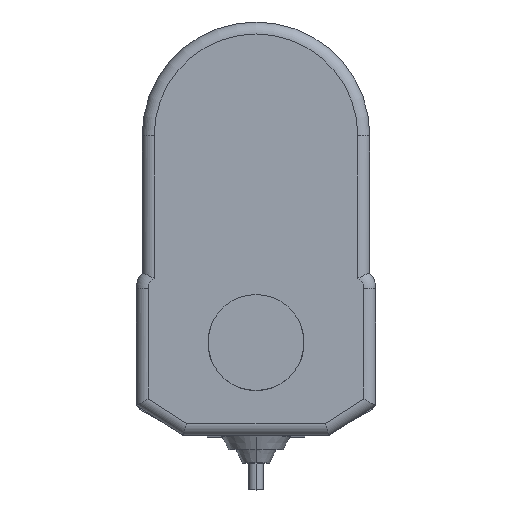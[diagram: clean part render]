
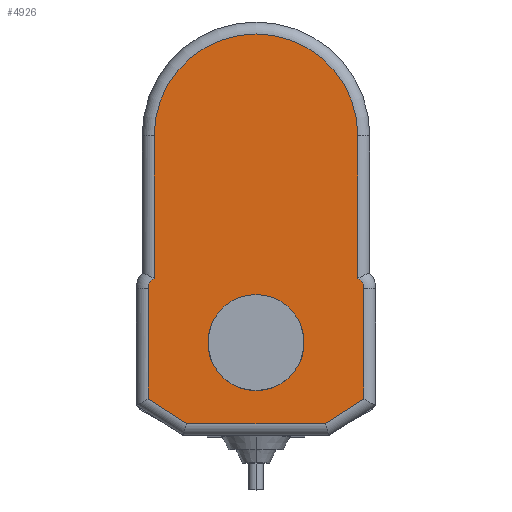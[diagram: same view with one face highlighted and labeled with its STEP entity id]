
A CAD part, top view. The second image highlights one B-rep face of the part: STEP entity #4926.
In plain terms, the highlighted planar face has unit normal (0, 0, 1).
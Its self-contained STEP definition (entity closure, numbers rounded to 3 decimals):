
#35 = CARTESIAN_POINT ( 'NONE',  ( -11.569, -13.5, 114.9 ) ) ;
#108 = LINE ( 'NONE', #109, #110 ) ;
#109 = CARTESIAN_POINT ( 'NONE',  ( 17., 34.5, 114.9 ) ) ;
#110 = VECTOR ( 'NONE', #111, 1000. ) ;
#111 = DIRECTION ( 'NONE',  ( 0., 1., 0. ) ) ;
#219 = ORIENTED_EDGE ( 'NONE', *, *, #523, .T. ) ;
#274 = CARTESIAN_POINT ( 'NONE',  ( 17., 34.5, 114.9 ) ) ;
#383 = CIRCLE ( 'NONE', #384, 8. ) ;
#384 = AXIS2_PLACEMENT_3D ( 'NONE', #385, #386, #387 ) ;
#385 = CARTESIAN_POINT ( 'NONE',  ( 0., 0., 114.9 ) ) ;
#386 = DIRECTION ( 'NONE',  ( 0., 0., 1. ) ) ;
#387 = DIRECTION ( 'NONE',  ( 1., 0., 0. ) ) ;
#515 = LINE ( 'NONE', #516, #517 ) ;
#516 = CARTESIAN_POINT ( 'NONE',  ( 12.152, -13.5, 114.9 ) ) ;
#517 = VECTOR ( 'NONE', #518, 1000. ) ;
#518 = DIRECTION ( 'NONE',  ( 1., 0., 0. ) ) ;
#523 = EDGE_CURVE ( 'NONE', #746, #934, #5088, .T. ) ;
#718 = CARTESIAN_POINT ( 'NONE',  ( 11.569, -13.5, 114.9 ) ) ;
#746 = VERTEX_POINT ( 'NONE', #5162 ) ;
#795 = CIRCLE ( 'NONE', #799, 17. ) ;
#799 = AXIS2_PLACEMENT_3D ( 'NONE', #800, #801, #802 ) ;
#800 = CARTESIAN_POINT ( 'NONE',  ( 0., 34.5, 114.9 ) ) ;
#801 = DIRECTION ( 'NONE',  ( 0., 0., 1. ) ) ;
#802 = DIRECTION ( 'NONE',  ( 1., 0., 0. ) ) ;
#934 = VERTEX_POINT ( 'NONE', #35 ) ;
#984 = CARTESIAN_POINT ( 'NONE',  ( -17., 34.5, 114.9 ) ) ;
#1208 = LINE ( 'NONE', #1209, #1210 ) ;
#1209 = CARTESIAN_POINT ( 'NONE',  ( 18.925, -8.813, 114.9 ) ) ;
#1210 = VECTOR ( 'NONE', #1211, 1000. ) ;
#1211 = DIRECTION ( 'NONE',  ( 0.843, 0.537, 0. ) ) ;
#1343 = ORIENTED_EDGE ( 'NONE', *, *, #1653, .T. ) ;
#1365 = CARTESIAN_POINT ( 'NONE',  ( 18., -9.403, 114.9 ) ) ;
#1440 = LINE ( 'NONE', #1441, #1442 ) ;
#1441 = CARTESIAN_POINT ( 'NONE',  ( -17., 11.646, 114.9 ) ) ;
#1442 = VECTOR ( 'NONE', #1443, 1000. ) ;
#1443 = DIRECTION ( 'NONE',  ( 0., -1., 0. ) ) ;
#1585 = CARTESIAN_POINT ( 'NONE',  ( 0., -8., 114.9 ) ) ;
#1586 = CARTESIAN_POINT ( 'NONE',  ( -17., 10.732, 114.9 ) ) ;
#1653 = EDGE_CURVE ( 'NONE', #934, #1889, #515, .T. ) ;
#1783 = LINE ( 'NONE', #1784, #1785 ) ;
#1784 = CARTESIAN_POINT ( 'NONE',  ( 18., 9., 114.9 ) ) ;
#1785 = VECTOR ( 'NONE', #1786, 1000. ) ;
#1786 = DIRECTION ( 'NONE',  ( 0., 1., 0. ) ) ;
#1889 = VERTEX_POINT ( 'NONE', #718 ) ;
#1920 = CARTESIAN_POINT ( 'NONE',  ( 18., 9., 114.9 ) ) ;
#1940 = FACE_OUTER_BOUND ( 'NONE', #4804, .T. ) ;
#1941 = FACE_BOUND ( 'NONE', #4809, .T. ) ;
#1942 = PLANE ( 'NONE',  #1943 ) ;
#1943 = AXIS2_PLACEMENT_3D ( 'NONE', #1945, #1946, #1947 ) ;
#1945 = CARTESIAN_POINT ( 'NONE',  ( 0., 34.5, 114.9 ) ) ;
#1946 = DIRECTION ( 'NONE',  ( 0., 0., 1. ) ) ;
#1947 = DIRECTION ( 'NONE',  ( 1., 0., 0. ) ) ;
#2043 = CIRCLE ( 'NONE', #2044, 2. ) ;
#2044 = AXIS2_PLACEMENT_3D ( 'NONE', #2045, #2046, #2047 ) ;
#2045 = CARTESIAN_POINT ( 'NONE',  ( -16., 9., 114.9 ) ) ;
#2046 = DIRECTION ( 'NONE',  ( 0., 0., 1. ) ) ;
#2047 = DIRECTION ( 'NONE',  ( 1., 0., 0. ) ) ;
#2155 = CIRCLE ( 'NONE', #2156, 8. ) ;
#2156 = AXIS2_PLACEMENT_3D ( 'NONE', #2157, #2158, #2160 ) ;
#2157 = CARTESIAN_POINT ( 'NONE',  ( 0., 0., 114.9 ) ) ;
#2158 = DIRECTION ( 'NONE',  ( 0., 0., 1. ) ) ;
#2160 = DIRECTION ( 'NONE',  ( 1., 0., 0. ) ) ;
#2200 = CARTESIAN_POINT ( 'NONE',  ( -18., 9., 114.9 ) ) ;
#2273 = CARTESIAN_POINT ( 'NONE',  ( 0., 8., 114.9 ) ) ;
#2277 = ORIENTED_EDGE ( 'NONE', *, *, #2580, .T. ) ;
#2410 = CIRCLE ( 'NONE', #2411, 2. ) ;
#2411 = AXIS2_PLACEMENT_3D ( 'NONE', #2412, #2413, #2414 ) ;
#2412 = CARTESIAN_POINT ( 'NONE',  ( 16., 9., 114.9 ) ) ;
#2413 = DIRECTION ( 'NONE',  ( 0., 0., 1. ) ) ;
#2414 = DIRECTION ( 'NONE',  ( 1., 0., 0. ) ) ;
#2496 = CARTESIAN_POINT ( 'NONE',  ( 17., 10.732, 114.9 ) ) ;
#2580 = EDGE_CURVE ( 'NONE', #1889, #2819, #1208, .T. ) ;
#2819 = VERTEX_POINT ( 'NONE', #1365 ) ;
#3145 = VERTEX_POINT ( 'NONE', #1585 ) ;
#3215 = ORIENTED_EDGE ( 'NONE', *, *, #3530, .T. ) ;
#3530 = EDGE_CURVE ( 'NONE', #2819, #3673, #1783, .T. ) ;
#3673 = VERTEX_POINT ( 'NONE', #1920 ) ;
#3691 = EDGE_CURVE ( 'NONE', #3145, #3709, #2155, .T. ) ;
#3704 = ORIENTED_EDGE ( 'NONE', *, *, #3726, .T. ) ;
#3709 = VERTEX_POINT ( 'NONE', #2273 ) ;
#3726 = EDGE_CURVE ( 'NONE', #3673, #3748, #2410, .T. ) ;
#3748 = VERTEX_POINT ( 'NONE', #2496 ) ;
#3789 = ORIENTED_EDGE ( 'NONE', *, *, #3822, .T. ) ;
#3822 = EDGE_CURVE ( 'NONE', #3748, #3842, #108, .T. ) ;
#3842 = VERTEX_POINT ( 'NONE', #274 ) ;
#3867 = ORIENTED_EDGE ( 'NONE', *, *, #3893, .T. ) ;
#3893 = EDGE_CURVE ( 'NONE', #3842, #3910, #795, .T. ) ;
#3910 = VERTEX_POINT ( 'NONE', #984 ) ;
#3939 = ORIENTED_EDGE ( 'NONE', *, *, #3961, .T. ) ;
#3961 = EDGE_CURVE ( 'NONE', #3910, #3978, #1440, .T. ) ;
#3978 = VERTEX_POINT ( 'NONE', #1586 ) ;
#4009 = ORIENTED_EDGE ( 'NONE', *, *, #4044, .T. ) ;
#4044 = EDGE_CURVE ( 'NONE', #3978, #4071, #2043, .T. ) ;
#4071 = VERTEX_POINT ( 'NONE', #2200 ) ;
#4112 = ORIENTED_EDGE ( 'NONE', *, *, #4144, .T. ) ;
#4144 = EDGE_CURVE ( 'NONE', #4071, #746, #5036, .T. ) ;
#4241 = ORIENTED_EDGE ( 'NONE', *, *, #4276, .F. ) ;
#4276 = EDGE_CURVE ( 'NONE', #3709, #3145, #383, .T. ) ;
#4335 = ORIENTED_EDGE ( 'NONE', *, *, #3691, .F. ) ;
#4804 = EDGE_LOOP ( 'NONE', ( #219, #1343, #2277, #3215, #3704, #3789, #3867, #3939, #4009, #4112 ) ) ;
#4809 = EDGE_LOOP ( 'NONE', ( #4241, #4335 ) ) ;
#4926 = ADVANCED_FACE ( 'NONE', ( #1940, #1941 ), #1942, .T. ) ;
#5036 = LINE ( 'NONE', #5037, #5039 ) ;
#5037 = CARTESIAN_POINT ( 'NONE',  ( -18., -10.5, 114.9 ) ) ;
#5039 = VECTOR ( 'NONE', #5040, 1000. ) ;
#5040 = DIRECTION ( 'NONE',  ( 0., -1., 0. ) ) ;
#5088 = LINE ( 'NONE', #5089, #5090 ) ;
#5089 = CARTESIAN_POINT ( 'NONE',  ( -11.077, -13.813, 114.9 ) ) ;
#5090 = VECTOR ( 'NONE', #5092, 1000. ) ;
#5092 = DIRECTION ( 'NONE',  ( 0.843, -0.537, 0. ) ) ;
#5162 = CARTESIAN_POINT ( 'NONE',  ( -18., -9.403, 114.9 ) ) ;
